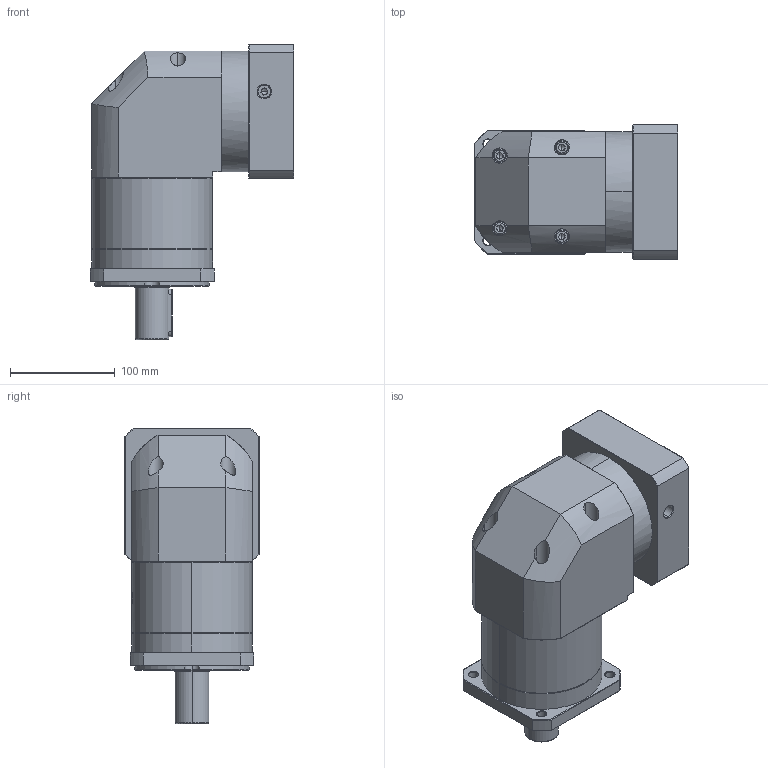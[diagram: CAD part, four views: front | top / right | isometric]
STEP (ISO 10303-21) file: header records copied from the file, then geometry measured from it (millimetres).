
FILE_DESCRIPTION (( 'STEP AP214' ), '1' );
FILE_NAME ('ZFR120A-D32-L2-P2-22-110-145-M8.step', '2023-08-27T08:09:18', ( '' ), ( '' ), 'SwSTEP 2.0', 'SolidWorks 2016', '' );
FILE_SCHEMA (( 'AUTOMOTIVE_DESIGN' ));
Length unit declared in the file: millimetre
Products named in the file (1): ZFR120A-D32-L2-P2-22-110-145-M8
Bounding box: 193.9 x 128 x 281.5 mm (x, y, z)
Volume: 3288963.2 mm3; surface area: 262528.9 mm2
Topology: 6 solids, 6 shells, 2266 faces, 5977 edges, 3816 vertices
Faces by surface type: plane 1061, cylinder 434, bspline 425, cone 338, torus 8
Entity records: 124457 total; most frequent: CARTESIAN_POINT 49043, ORIENTED_EDGE 11894, DIRECTION 8623, EDGE_CURVE 5947, VERTEX_POINT 3816, LINE 3159, VECTOR 3159, AXIS2_PLACEMENT_3D 2732
